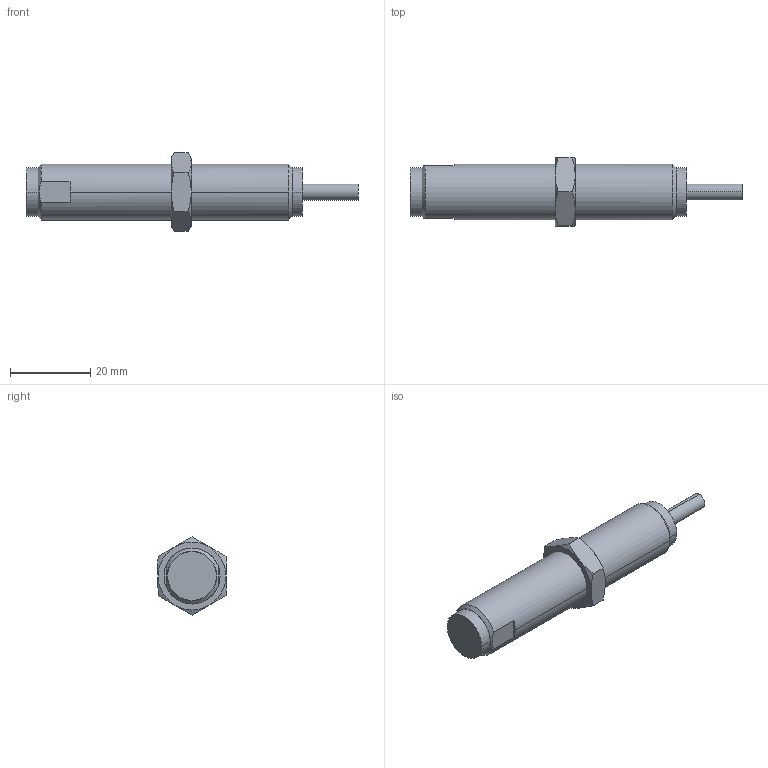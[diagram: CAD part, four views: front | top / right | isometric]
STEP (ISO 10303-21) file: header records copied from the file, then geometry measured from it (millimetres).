
FILE_DESCRIPTION((''),'2;1');
FILE_NAME('R412010305_ASM','2015-05-05T',('mla1hc'),(''),'PRO/ENGINEER BY PARAMETRIC TECHNOLOGY CORPORATION, 2011490','PRO/ENGINEER BY PARAMETRIC TECHNOLOGY CORPORATION, 2011490','');
FILE_SCHEMA(('AUTOMOTIVE_DESIGN_CC2 { 1 2 10303 214 -1 1 5 2 }'));
Length unit declared in the file: millimetre
Products named in the file (4): R412010305-A; R412010363; R412010305-D; R412010305_ASM
Assembly tree (3 placements, depth 2):
  R412010305_ASM
    R412010305-A
    R412010363
    R412010305-D
Bounding box: 83 x 17 x 19.63 mm (x, y, z)
Volume: 11141.9 mm3; surface area: 4158.2 mm2
Topology: 3 solids, 3 shells, 48 faces, 102 edges, 62 vertices
Faces by surface type: cone 20, plane 18, cylinder 10
Entity records: 1572 total; most frequent: CARTESIAN_POINT 481, DIRECTION 228, ORIENTED_EDGE 204, EDGE_CURVE 102, AXIS2_PLACEMENT_3D 99, VERTEX_POINT 62, EDGE_LOOP 52, FACE_OUTER_BOUND 48
